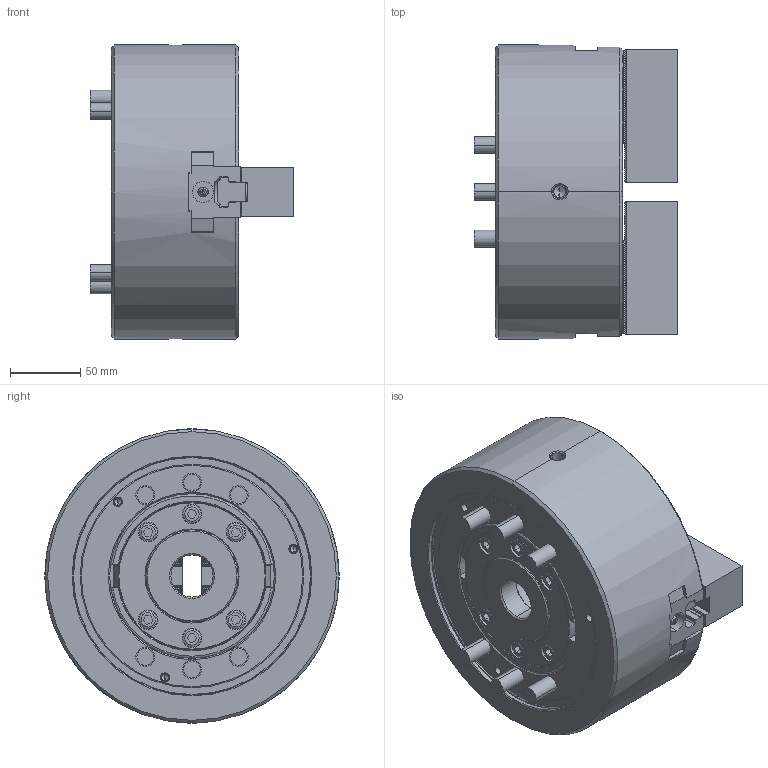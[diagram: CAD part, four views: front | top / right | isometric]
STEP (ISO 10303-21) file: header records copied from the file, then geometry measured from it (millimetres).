
FILE_DESCRIPTION (( 'STEP AP214' ), '1' );
FILE_NAME ('BT208_61P216126-7_OC.STEP', '2020-12-11T06:33:22', ( '' ), ( '' ), 'SwSTEP 2.0', 'SolidWorks 2017', '' );
FILE_SCHEMA (( 'AUTOMOTIVE_DESIGN' ));
Length unit declared in the file: millimetre
Products named in the file (14): 61P314548-4_ソフトジョー; 61P417260-1_俿僫僢僩; BT208_61P216126-7_OC; BT208_BASE PARTS^61P216123-9_クミタテ; Bアナツキ M12×30
Assembly tree (9 placements, depth 2):
  61P314548-4_ソフトジョー
  61P417260-1_俿僫僢僩
  BT208_61P216126-7_OC
    61P417260-1_俿僫僢僩  x2
    61P314548-4_ソフトジョー  x2
    Bアナツキ M12×30  x4
    BT208_BASE PARTS^61P216123-9_クミタテ
  BT208_BASE PARTS^61P216123-9_クミタテ
  Bアナツキ M12×30
Bounding box: 145.2 x 210 x 210 mm (x, y, z)
Volume: 3037990.6 mm3; surface area: 297489.1 mm2
Topology: 9 solids, 13 shells, 2503 faces, 6899 edges, 4524 vertices
Faces by surface type: plane 1965, cylinder 240, cone 141, bspline 122, torus 27, sphere 8
Entity records: 67431 total; most frequent: CARTESIAN_POINT 16451, ORIENTED_EDGE 10992, DIRECTION 9660, EDGE_CURVE 5496, VECTOR 4454, LINE 4454, VERTEX_POINT 3602, AXIS2_PLACEMENT_3D 2603
